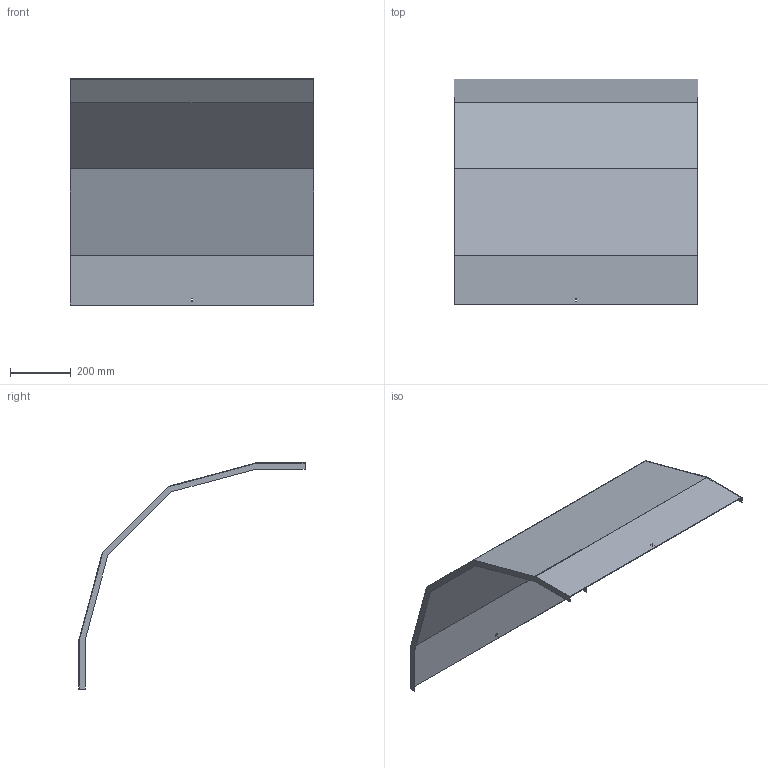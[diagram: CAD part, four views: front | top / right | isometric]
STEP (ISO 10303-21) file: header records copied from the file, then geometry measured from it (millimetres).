
FILE_DESCRIPTION (( 'STEP AP214' ), '1' );
FILE_NAME ('33N5C800.step', '2025-02-21T10:43:03', ( '' ), ( '' ), 'SwSTEP 2.0', 'SolidWorks 2023', '' );
FILE_SCHEMA (( 'AUTOMOTIVE_DESIGN' ));
Length unit declared in the file: millimetre
Products named in the file (1): 33N5C800
Bounding box: 803 x 745.38 x 745.38 mm (x, y, z)
Volume: 1545926.7 mm3; surface area: 2067443.3 mm2
Topology: 1 solids, 1 shells, 34 faces, 96 edges, 64 vertices
Faces by surface type: plane 34
Entity records: 1111 total; most frequent: CARTESIAN_POINT 195, ORIENTED_EDGE 192, DIRECTION 166, LINE 96, VECTOR 96, EDGE_CURVE 96, VERTEX_POINT 64, EDGE_LOOP 38
